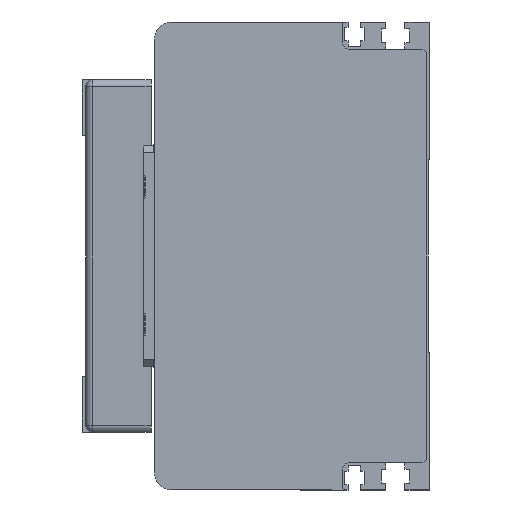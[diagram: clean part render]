
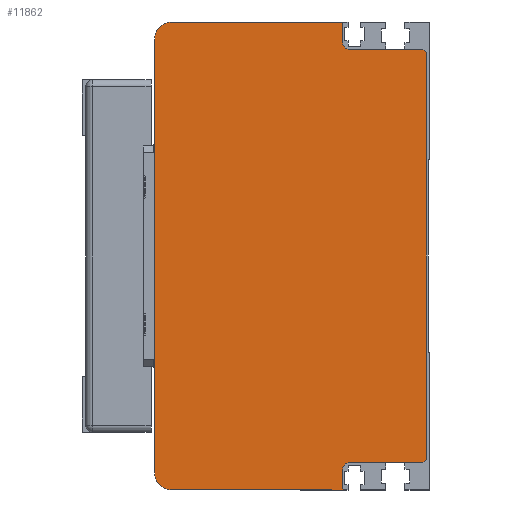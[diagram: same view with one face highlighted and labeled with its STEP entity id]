
A CAD part, left-side view. The second image highlights one B-rep face of the part: STEP entity #11862.
In plain terms, the highlighted planar face has unit normal (-1, 0, 0) as drawn and (0, 0, -1) by its records, which use the part's own axes.
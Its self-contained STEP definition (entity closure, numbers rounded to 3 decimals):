
#945=FACE_OUTER_BOUND('',#1660,.T.);
#1660=EDGE_LOOP('',(#8239,#8240,#8241,#8242,#8243,#8244,#8245,#8246,#8247,
#8248,#8249,#8250,#8251,#8252));
#2432=CIRCLE('',#12714,2.);
#2433=CIRCLE('',#12715,5.);
#2434=CIRCLE('',#12716,5.);
#2435=CIRCLE('',#12717,2.);
#2710=LINE('',#16863,#3853);
#2711=LINE('',#16865,#3854);
#2712=LINE('',#16867,#3855);
#2713=LINE('',#16869,#3856);
#2714=LINE('',#16873,#3857);
#2715=LINE('',#16875,#3858);
#2716=LINE('',#16879,#3859);
#2717=LINE('',#16883,#3860);
#2718=LINE('',#16885,#3861);
#2719=LINE('',#16888,#3862);
#3853=VECTOR('',#13901,1.414);
#3854=VECTOR('',#13902,118.);
#3855=VECTOR('',#13903,1.414);
#3856=VECTOR('',#13904,21.3);
#3857=VECTOR('',#13907,6.);
#3858=VECTOR('',#13908,49.7);
#3859=VECTOR('',#13911,126.);
#3860=VECTOR('',#13914,49.7);
#3861=VECTOR('',#13915,6.);
#3862=VECTOR('',#13918,21.3);
#5062=VERTEX_POINT('',#16861);
#5063=VERTEX_POINT('',#16862);
#5064=VERTEX_POINT('',#16864);
#5065=VERTEX_POINT('',#16866);
#5066=VERTEX_POINT('',#16868);
#5067=VERTEX_POINT('',#16870);
#5068=VERTEX_POINT('',#16872);
#5069=VERTEX_POINT('',#16874);
#5070=VERTEX_POINT('',#16876);
#5071=VERTEX_POINT('',#16878);
#5072=VERTEX_POINT('',#16880);
#5073=VERTEX_POINT('',#16882);
#5074=VERTEX_POINT('',#16884);
#5075=VERTEX_POINT('',#16886);
#6308=EDGE_CURVE('',#5062,#5063,#2710,.T.);
#6309=EDGE_CURVE('',#5062,#5064,#2711,.T.);
#6310=EDGE_CURVE('',#5065,#5064,#2712,.T.);
#6311=EDGE_CURVE('',#5065,#5066,#2713,.T.);
#6312=EDGE_CURVE('',#5067,#5066,#2432,.T.);
#6313=EDGE_CURVE('',#5067,#5068,#2714,.T.);
#6314=EDGE_CURVE('',#5068,#5069,#2715,.T.);
#6315=EDGE_CURVE('',#5069,#5070,#2433,.T.);
#6316=EDGE_CURVE('',#5070,#5071,#2716,.T.);
#6317=EDGE_CURVE('',#5071,#5072,#2434,.T.);
#6318=EDGE_CURVE('',#5072,#5073,#2717,.T.);
#6319=EDGE_CURVE('',#5073,#5074,#2718,.T.);
#6320=EDGE_CURVE('',#5075,#5074,#2435,.T.);
#6321=EDGE_CURVE('',#5075,#5063,#2719,.T.);
#8239=ORIENTED_EDGE('',*,*,#6308,.F.);
#8240=ORIENTED_EDGE('',*,*,#6309,.T.);
#8241=ORIENTED_EDGE('',*,*,#6310,.F.);
#8242=ORIENTED_EDGE('',*,*,#6311,.T.);
#8243=ORIENTED_EDGE('',*,*,#6312,.F.);
#8244=ORIENTED_EDGE('',*,*,#6313,.T.);
#8245=ORIENTED_EDGE('',*,*,#6314,.T.);
#8246=ORIENTED_EDGE('',*,*,#6315,.T.);
#8247=ORIENTED_EDGE('',*,*,#6316,.T.);
#8248=ORIENTED_EDGE('',*,*,#6317,.T.);
#8249=ORIENTED_EDGE('',*,*,#6318,.T.);
#8250=ORIENTED_EDGE('',*,*,#6319,.T.);
#8251=ORIENTED_EDGE('',*,*,#6320,.F.);
#8252=ORIENTED_EDGE('',*,*,#6321,.T.);
#11280=PLANE('',#12713);
#11862=ADVANCED_FACE('',(#945),#11280,.T.);
#12713=AXIS2_PLACEMENT_3D('',#16860,#13899,#13900);
#12714=AXIS2_PLACEMENT_3D('',#16871,#13905,#13906);
#12715=AXIS2_PLACEMENT_3D('',#16877,#13909,#13910);
#12716=AXIS2_PLACEMENT_3D('',#16881,#13912,#13913);
#12717=AXIS2_PLACEMENT_3D('',#16887,#13916,#13917);
#13899=DIRECTION('center_axis',(0.,0.,-1.));
#13900=DIRECTION('ref_axis',(0.,-1.,0.));
#13901=DIRECTION('',(0.707,0.707,0.));
#13902=DIRECTION('',(-1.,0.,0.));
#13903=DIRECTION('',(0.707,-0.707,0.));
#13904=DIRECTION('',(0.,1.,0.));
#13905=DIRECTION('center_axis',(0.,0.,-1.));
#13906=DIRECTION('ref_axis',(0.707,0.707,0.));
#13907=DIRECTION('',(-1.,0.,0.));
#13908=DIRECTION('',(0.,1.,0.));
#13909=DIRECTION('center_axis',(0.,0.,-1.));
#13910=DIRECTION('ref_axis',(-1.,0.,0.));
#13911=DIRECTION('',(1.,0.,0.));
#13912=DIRECTION('center_axis',(0.,0.,-1.));
#13913=DIRECTION('ref_axis',(0.,1.,0.));
#13914=DIRECTION('',(0.,-1.,0.));
#13915=DIRECTION('',(-1.,0.,0.));
#13916=DIRECTION('center_axis',(0.,0.,-1.));
#13917=DIRECTION('ref_axis',(-0.707,0.707,0.));
#13918=DIRECTION('',(0.,-1.,0.));
#16860=CARTESIAN_POINT('Origin',(-29.,-60.,-500.));
#16861=CARTESIAN_POINT('',(66.,-74.,-500.));
#16862=CARTESIAN_POINT('',(67.,-73.,-500.));
#16863=CARTESIAN_POINT('',(46.,-94.,-500.));
#16864=CARTESIAN_POINT('',(-52.,-74.,-500.));
#16865=CARTESIAN_POINT('',(-11.,-74.,-500.));
#16866=CARTESIAN_POINT('',(-53.,-73.,-500.));
#16867=CARTESIAN_POINT('',(-50.,-76.,-500.));
#16868=CARTESIAN_POINT('',(-53.,-51.7,-500.));
#16869=CARTESIAN_POINT('',(-53.,-67.,-500.));
#16870=CARTESIAN_POINT('',(-55.,-49.7,-500.));
#16871=CARTESIAN_POINT('Origin',(-55.,-51.7,-500.));
#16872=CARTESIAN_POINT('',(-61.,-49.7,-500.));
#16873=CARTESIAN_POINT('',(-41.,-49.7,-500.));
#16874=CARTESIAN_POINT('',(-61.,0.,-500.));
#16875=CARTESIAN_POINT('',(-61.,-51.25,-500.));
#16876=CARTESIAN_POINT('',(-56.,5.,-500.));
#16877=CARTESIAN_POINT('Origin',(-56.,0.,
-500.));
#16878=CARTESIAN_POINT('',(70.,5.,-500.));
#16879=CARTESIAN_POINT('',(-56.,5.,-500.));
#16880=CARTESIAN_POINT('',(75.,0.,-500.));
#16881=CARTESIAN_POINT('Origin',(70.,0.,
-500.));
#16882=CARTESIAN_POINT('',(75.,-49.7,-500.));
#16883=CARTESIAN_POINT('',(75.,0.,-500.));
#16884=CARTESIAN_POINT('',(69.,-49.7,-500.));
#16885=CARTESIAN_POINT('',(19.,-49.7,-500.));
#16886=CARTESIAN_POINT('',(67.,-51.7,-500.));
#16887=CARTESIAN_POINT('Origin',(69.,-51.7,-500.));
#16888=CARTESIAN_POINT('',(67.,-67.,-500.));
